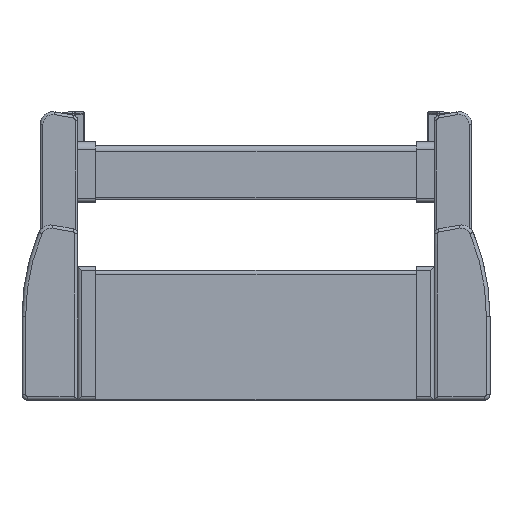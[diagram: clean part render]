
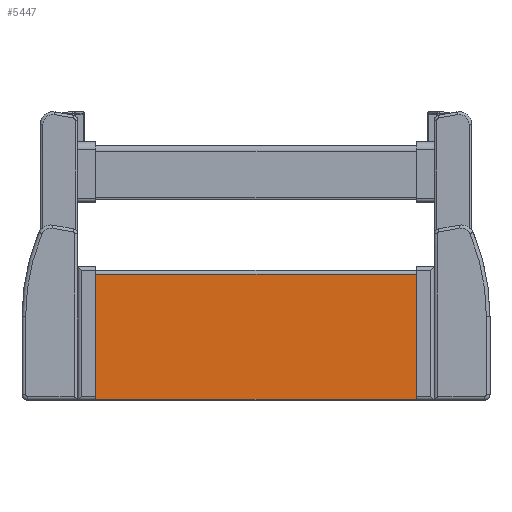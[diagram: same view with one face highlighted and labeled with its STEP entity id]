
A CAD part, top view. The second image highlights one B-rep face of the part: STEP entity #5447.
In plain terms, the highlighted planar face has unit normal (0, 0, 1).
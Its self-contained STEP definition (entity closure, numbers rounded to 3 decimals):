
#387 = VERTEX_POINT ( 'NONE', #1678 ) ;
#390 = EDGE_CURVE ( 'NONE', #391, #387, #1722, .T. ) ;
#391 = VERTEX_POINT ( 'NONE', #1718 ) ;
#1678 = CARTESIAN_POINT ( 'NONE',  ( 88.8, -23., 1.4 ) ) ;
#1718 = CARTESIAN_POINT ( 'NONE',  ( 88.8, -92.5, 1.4 ) ) ;
#1719 = DIRECTION ( 'NONE',  ( 0., 1., 0. ) ) ;
#1720 = VECTOR ( 'NONE', #1719, 1000. ) ;
#1721 = CARTESIAN_POINT ( 'NONE',  ( 88.8, -92.5, 1.4 ) ) ;
#1722 = LINE ( 'NONE', #1721, #1720 ) ;
#3093 = CARTESIAN_POINT ( 'NONE',  ( -88.8, -23., 1.4 ) ) ;
#3135 = DIRECTION ( 'NONE',  ( -1., 0., 0. ) ) ;
#3136 = VECTOR ( 'NONE', #3135, 1000. ) ;
#3137 = CARTESIAN_POINT ( 'NONE',  ( 162.556, -23., 1.4 ) ) ;
#3138 = LINE ( 'NONE', #3137, #3136 ) ;
#3139 = DIRECTION ( 'NONE',  ( 0., 1., 0. ) ) ;
#3140 = VECTOR ( 'NONE', #3139, 1000. ) ;
#3141 = CARTESIAN_POINT ( 'NONE',  ( -88.8, -92.5, 1.4 ) ) ;
#3142 = LINE ( 'NONE', #3141, #3140 ) ;
#3557 = DIRECTION ( 'NONE',  ( 0., 1., 0. ) ) ;
#3558 = DIRECTION ( 'NONE',  ( 0., 0., -1. ) ) ;
#3559 = CARTESIAN_POINT ( 'NONE',  ( 162.556, -92.5, 1.4 ) ) ;
#3560 = AXIS2_PLACEMENT_3D ( 'NONE', #3559, #3558, #3557 ) ;
#3561 = PLANE ( 'NONE',  #3560 ) ;
#3563 = FACE_OUTER_BOUND ( 'NONE', #5485, .T. ) ;
#3573 = DIRECTION ( 'NONE',  ( -1., 0., 0. ) ) ;
#3574 = CARTESIAN_POINT ( 'NONE',  ( 162.556, -92.5, 1.4 ) ) ;
#3575 = LINE ( 'NONE', #3574, #3639 ) ;
#3633 = CARTESIAN_POINT ( 'NONE',  ( -88.8, -92.5, 1.4 ) ) ;
#3639 = VECTOR ( 'NONE', #3573, 1000. ) ;
#5222 = VERTEX_POINT ( 'NONE', #3093 ) ;
#5227 = EDGE_CURVE ( 'NONE', #5483, #5222, #3142, .T. ) ;
#5228 = EDGE_CURVE ( 'NONE', #387, #5222, #3138, .T. ) ;
#5403 = ORIENTED_EDGE ( 'NONE', *, *, #5228, .T. ) ;
#5447 = ADVANCED_FACE ( 'NONE', ( #3563 ), #3561, .F. ) ;
#5450 = ORIENTED_EDGE ( 'NONE', *, *, #390, .T. ) ;
#5479 = EDGE_CURVE ( 'NONE', #391, #5483, #3575, .T. ) ;
#5483 = VERTEX_POINT ( 'NONE', #3633 ) ;
#5485 = EDGE_LOOP ( 'NONE', ( #6338, #5450, #5403, #6404 ) ) ;
#6338 = ORIENTED_EDGE ( 'NONE', *, *, #5479, .F. ) ;
#6404 = ORIENTED_EDGE ( 'NONE', *, *, #5227, .F. ) ;
